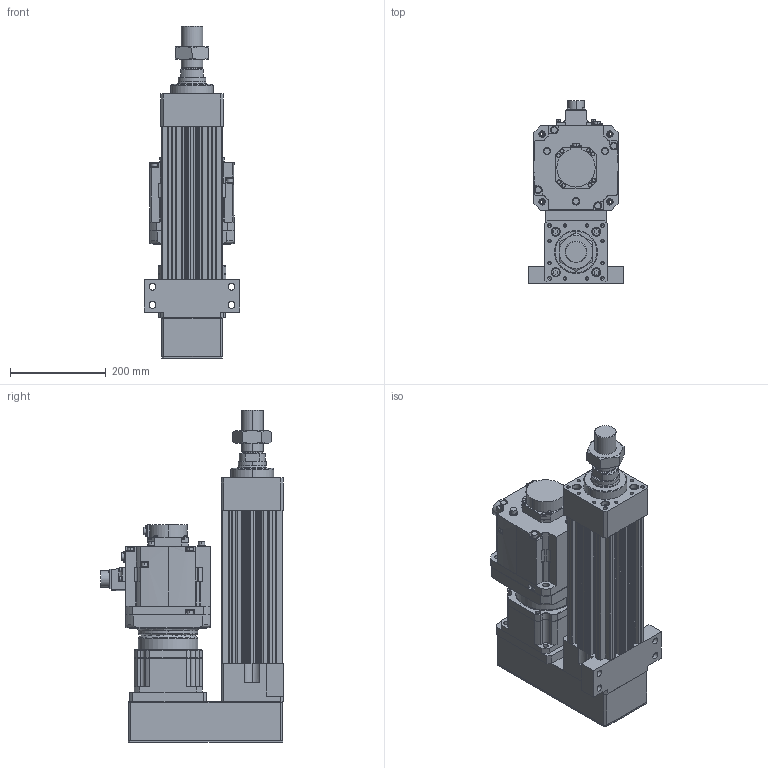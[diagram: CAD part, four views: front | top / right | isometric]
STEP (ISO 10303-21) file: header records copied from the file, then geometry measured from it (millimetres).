
FILE_DESCRIPTION (( 'STEP AP203' ), '1' );
FILE_NAME ('HES130NS(FS)(HS)-P100-W020G00-M-FFC.STEP', '2026-06-10T06:10:25', ( 'tms' ), ( '' ), 'SwSTEP 2.0', 'SolidWorks 2013', '' );
FILE_SCHEMA (( 'CONFIG_CONTROL_DESIGN' ));
Length unit declared in the file: millimetre
Products named in the file (9): M45X1.5P; HES130-P-G142; AB1423; HES130NS(FS)(HS)-P100-W020G00-M-FFC; HG-SR202B; HES130-M-ROD-100; HES130-FFC-100; AB1421; AB1422
Assembly tree (8 placements, depth 2):
  HES130NS(FS)(HS)-P100-W020G00-M-FFC
    HES130-FFC-100
    HES130-M-ROD-100
    M45X1.5P
    HES130-P-G142
    AB1421
    AB1422
    AB1423
    HG-SR202B
Bounding box: 200 x 381.85 x 694 mm (x, y, z)
Volume: 11788980 mm3; surface area: 1315482.7 mm2
Topology: 5 solids, 19 shells, 1533 faces, 3980 edges, 2570 vertices
Faces by surface type: cylinder 698, plane 585, cone 168, bspline 76, torus 6
Entity records: 55808 total; most frequent: CARTESIAN_POINT 16861, DIRECTION 8168, ORIENTED_EDGE 7838, EDGE_CURVE 3941, AXIS2_PLACEMENT_3D 3094, VERTEX_POINT 2570, VECTOR 1980, LINE 1980
